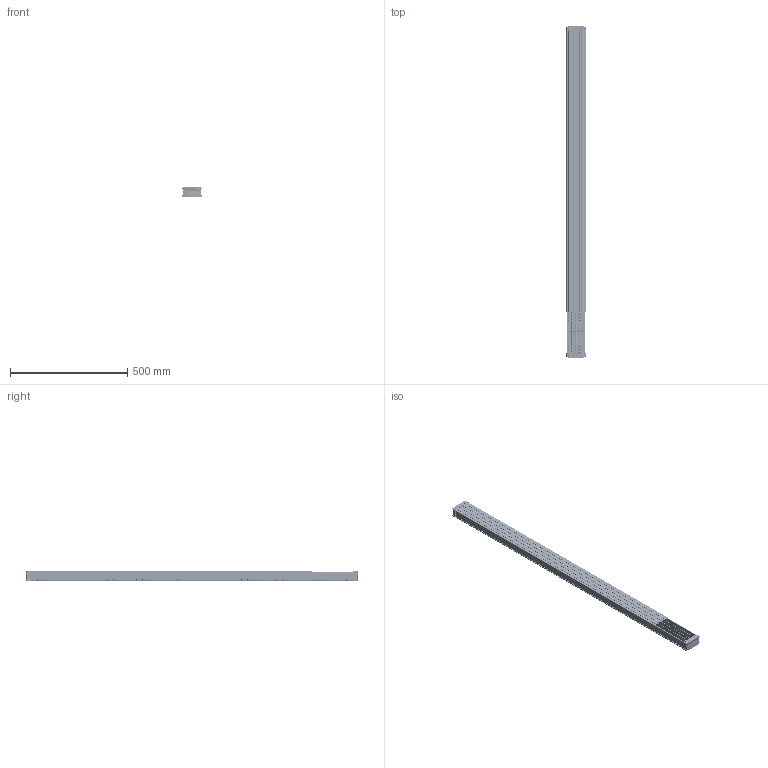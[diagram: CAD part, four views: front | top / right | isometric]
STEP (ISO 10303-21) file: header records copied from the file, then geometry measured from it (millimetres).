
FILE_DESCRIPTION (( 'STEP AP214' ), '1' );
FILE_NAME ('04116.STEP', '2014-04-23T08:17:31', ( '' ), ( '' ), 'SwSTEP 2.0', 'SolidWorks 2014', '' );
FILE_SCHEMA (( 'AUTOMOTIVE_DESIGN' ));
Length unit declared in the file: millimetre
Products named in the file (4): 469400800_4_2; 469400700_3_2; 04116; 469400000-4.2
Assembly tree (15 placements, depth 2):
  04116
    469400700_3_2  x6
    469400800_4_2  x2
    469400000-4.2  x7
Bounding box: 83.8 x 1416.65 x 42.67 mm (x, y, z)
Volume: 1016501 mm3; surface area: 1144030.5 mm2
Topology: 15 solids, 15 shells, 12795 faces, 36771 edges, 24315 vertices
Faces by surface type: plane 7410, cylinder 4791, bspline 476, cone 112, torus 6
Entity records: 86343 total; most frequent: CARTESIAN_POINT 34461, ORIENTED_EDGE 12164, DIRECTION 8755, EDGE_CURVE 6082, VERTEX_POINT 4017, VECTOR 3637, LINE 3637, AXIS2_PLACEMENT_3D 2559
